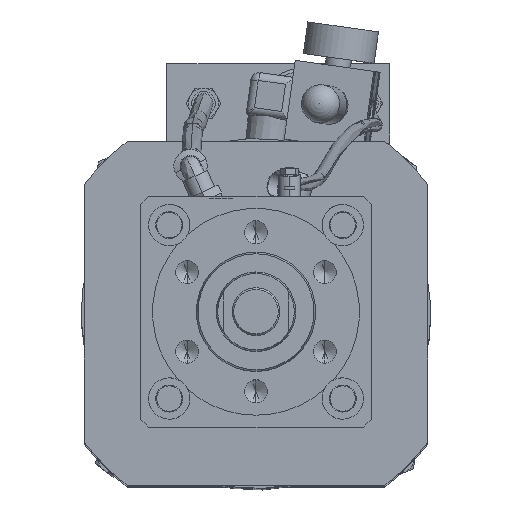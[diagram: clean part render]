
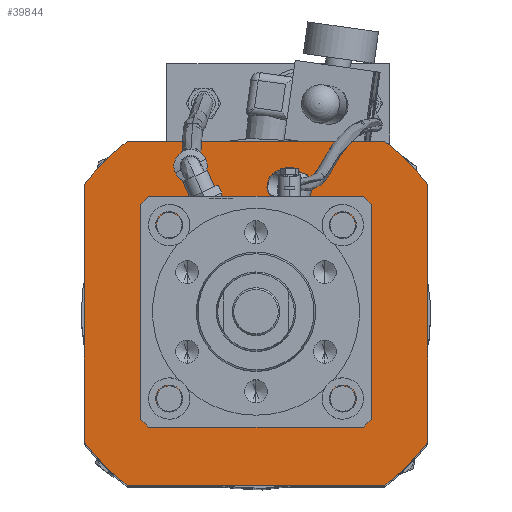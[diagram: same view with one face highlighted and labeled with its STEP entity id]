
A CAD part, top view. The second image highlights one B-rep face of the part: STEP entity #39844.
In plain terms, the highlighted planar face has unit normal (0, 0, 1).
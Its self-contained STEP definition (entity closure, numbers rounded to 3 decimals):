
#70 = DIRECTION ( 'NONE',  ( 0., 1., 0. ) ) ;
#219 = CARTESIAN_POINT ( 'NONE',  ( -770.072, 1006.618, -613.616 ) ) ;
#864 = ORIENTED_EDGE ( 'NONE', *, *, #29841, .F. ) ;
#2243 = VECTOR ( 'NONE', #34175, 1000. ) ;
#2425 = CARTESIAN_POINT ( 'NONE',  ( -743.072, 979.618, -613.616 ) ) ;
#2932 = LINE ( 'NONE', #49420, #26997 ) ;
#3026 = ORIENTED_EDGE ( 'NONE', *, *, #17579, .F. ) ;
#3816 = CARTESIAN_POINT ( 'NONE',  ( -662.072, 1087.618, -613.616 ) ) ;
#4709 = AXIS2_PLACEMENT_3D ( 'NONE', #30286, #6883, #41949 ) ;
#4990 = CARTESIAN_POINT ( 'NONE',  ( -662.072, 1087.618, -613.616 ) ) ;
#6091 = EDGE_CURVE ( 'NONE', #10812, #28915, #29899, .T. ) ;
#6883 = DIRECTION ( 'NONE',  ( 0., 0., -1. ) ) ;
#7283 = LINE ( 'NONE', #38526, #20648 ) ;
#7842 = DIRECTION ( 'NONE',  ( -1., 0., 0. ) ) ;
#7891 = CARTESIAN_POINT ( 'NONE',  ( -770.072, 1168.618, -613.616 ) ) ;
#7980 = CARTESIAN_POINT ( 'NONE',  ( -554.072, 1006.618, -613.616 ) ) ;
#8030 = DIRECTION ( 'NONE',  ( 1., 0., 0. ) ) ;
#8372 = CIRCLE ( 'NONE', #27855, 135. ) ;
#8762 = VECTOR ( 'NONE', #70, 1000. ) ;
#9228 = VERTEX_POINT ( 'NONE', #219 ) ;
#10034 = VERTEX_POINT ( 'NONE', #35971 ) ;
#10323 = CARTESIAN_POINT ( 'NONE',  ( -743.072, 1195.618, -613.616 ) ) ;
#10448 = EDGE_CURVE ( 'NONE', #18571, #17095, #8372, .T. ) ;
#10798 = ORIENTED_EDGE ( 'NONE', *, *, #6091, .F. ) ;
#10812 = VERTEX_POINT ( 'NONE', #47679 ) ;
#11184 = AXIS2_PLACEMENT_3D ( 'NONE', #16114, #47384, #27827 ) ;
#11449 = DIRECTION ( 'NONE',  ( 0., 0., -1. ) ) ;
#11856 = EDGE_LOOP ( 'NONE', ( #24882, #3026, #37385, #20920, #10798, #22103, #37258, #864 ) ) ;
#11984 = CIRCLE ( 'NONE', #11184, 135. ) ;
#14440 = CARTESIAN_POINT ( 'NONE',  ( -662.072, 1087.618, -613.616 ) ) ;
#14576 = DIRECTION ( 'NONE',  ( -1., 0., 0. ) ) ;
#14876 = CARTESIAN_POINT ( 'NONE',  ( -554.072, 1168.618, -613.616 ) ) ;
#15295 = EDGE_CURVE ( 'NONE', #9228, #10812, #47518, .T. ) ;
#16114 = CARTESIAN_POINT ( 'NONE',  ( -662.072, 1087.618, -613.616 ) ) ;
#17095 = VERTEX_POINT ( 'NONE', #28437 ) ;
#17579 = EDGE_CURVE ( 'NONE', #27047, #18571, #34647, .T. ) ;
#18571 = VERTEX_POINT ( 'NONE', #7980 ) ;
#20171 = CARTESIAN_POINT ( 'NONE',  ( -554.072, 1168.618, -613.616 ) ) ;
#20648 = VECTOR ( 'NONE', #8030, 1000. ) ;
#20730 = DIRECTION ( 'NONE',  ( -1., 0., 0. ) ) ;
#20920 = ORIENTED_EDGE ( 'NONE', *, *, #35131, .F. ) ;
#22103 = ORIENTED_EDGE ( 'NONE', *, *, #15295, .F. ) ;
#23100 = AXIS2_PLACEMENT_3D ( 'NONE', #3816, #11449, #7842 ) ;
#24882 = ORIENTED_EDGE ( 'NONE', *, *, #10448, .F. ) ;
#26997 = VECTOR ( 'NONE', #14576, 1000. ) ;
#27047 = VERTEX_POINT ( 'NONE', #20171 ) ;
#27827 = DIRECTION ( 'NONE',  ( -1., 0., 0. ) ) ;
#27855 = AXIS2_PLACEMENT_3D ( 'NONE', #14440, #33503, #41367 ) ;
#28437 = CARTESIAN_POINT ( 'NONE',  ( -581.072, 979.618, -613.616 ) ) ;
#28879 = CIRCLE ( 'NONE', #36920, 135. ) ;
#28915 = VERTEX_POINT ( 'NONE', #10323 ) ;
#29841 = EDGE_CURVE ( 'NONE', #17095, #45856, #2932, .T. ) ;
#29899 = CIRCLE ( 'NONE', #4709, 135. ) ;
#30286 = CARTESIAN_POINT ( 'NONE',  ( -662.072, 1087.618, -613.616 ) ) ;
#33503 = DIRECTION ( 'NONE',  ( 0., 0., -1. ) ) ;
#34175 = DIRECTION ( 'NONE',  ( 0., -1., 0. ) ) ;
#34520 = PLANE ( 'NONE',  #23100 ) ;
#34647 = LINE ( 'NONE', #14876, #2243 ) ;
#35131 = EDGE_CURVE ( 'NONE', #28915, #10034, #7283, .T. ) ;
#35971 = CARTESIAN_POINT ( 'NONE',  ( -581.072, 1195.618, -613.616 ) ) ;
#36920 = AXIS2_PLACEMENT_3D ( 'NONE', #4990, #40512, #20730 ) ;
#36970 = EDGE_CURVE ( 'NONE', #45856, #9228, #11984, .T. ) ;
#37258 = ORIENTED_EDGE ( 'NONE', *, *, #36970, .F. ) ;
#37385 = ORIENTED_EDGE ( 'NONE', *, *, #40187, .F. ) ;
#38526 = CARTESIAN_POINT ( 'NONE',  ( -581.072, 1195.618, -613.616 ) ) ;
#39844 = ADVANCED_FACE ( 'NONE', ( #46240 ), #34520, .F. ) ;
#40187 = EDGE_CURVE ( 'NONE', #10034, #27047, #28879, .T. ) ;
#40512 = DIRECTION ( 'NONE',  ( 0., 0., -1. ) ) ;
#41367 = DIRECTION ( 'NONE',  ( -1., 0., 0. ) ) ;
#41949 = DIRECTION ( 'NONE',  ( -1., 0., 0. ) ) ;
#45856 = VERTEX_POINT ( 'NONE', #2425 ) ;
#46240 = FACE_OUTER_BOUND ( 'NONE', #11856, .T. ) ;
#47384 = DIRECTION ( 'NONE',  ( 0., 0., -1. ) ) ;
#47518 = LINE ( 'NONE', #7891, #8762 ) ;
#47679 = CARTESIAN_POINT ( 'NONE',  ( -770.072, 1168.618, -613.616 ) ) ;
#49420 = CARTESIAN_POINT ( 'NONE',  ( -581.072, 979.618, -613.616 ) ) ;
